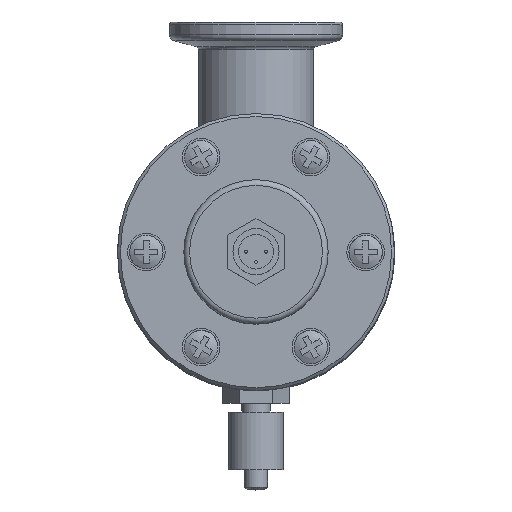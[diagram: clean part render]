
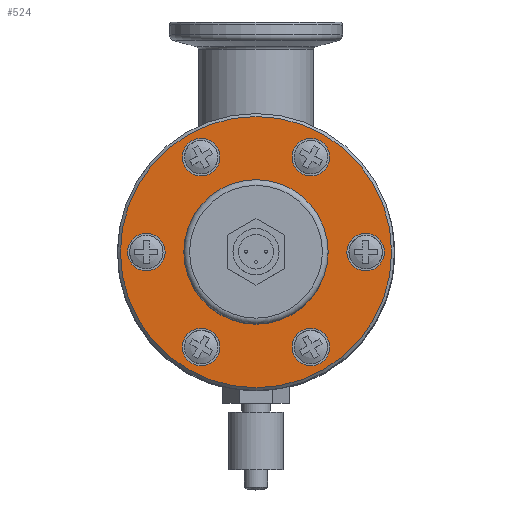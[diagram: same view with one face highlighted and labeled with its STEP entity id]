
A CAD part, top view. The second image highlights one B-rep face of the part: STEP entity #524.
In plain terms, the highlighted planar face has unit normal (0, 0, 1).
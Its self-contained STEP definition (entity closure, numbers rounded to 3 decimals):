
#524 = ADVANCED_FACE( '', ( #1041, #1042, #1043, #1044, #1045, #1046, #1047, #1048 ), #1049, .T. );
#1041 = FACE_BOUND( '', #1535, .T. );
#1042 = FACE_BOUND( '', #1536, .T. );
#1043 = FACE_BOUND( '', #1537, .T. );
#1044 = FACE_BOUND( '', #1538, .T. );
#1045 = FACE_BOUND( '', #1539, .T. );
#1046 = FACE_BOUND( '', #1540, .T. );
#1047 = FACE_OUTER_BOUND( '', #1541, .T. );
#1048 = FACE_BOUND( '', #1542, .T. );
#1049 = PLANE( '', #1543 );
#1535 = EDGE_LOOP( '', ( #2546 ) );
#1536 = EDGE_LOOP( '', ( #2547 ) );
#1537 = EDGE_LOOP( '', ( #2548 ) );
#1538 = EDGE_LOOP( '', ( #2549 ) );
#1539 = EDGE_LOOP( '', ( #2550 ) );
#1540 = EDGE_LOOP( '', ( #2551 ) );
#1541 = EDGE_LOOP( '', ( #2552 ) );
#1542 = EDGE_LOOP( '', ( #2553 ) );
#1543 = AXIS2_PLACEMENT_3D( '', #2554, #2555, #2556 );
#2546 = ORIENTED_EDGE( '', *, *, #2845, .T. );
#2547 = ORIENTED_EDGE( '', *, *, #2853, .T. );
#2548 = ORIENTED_EDGE( '', *, *, #2856, .T. );
#2549 = ORIENTED_EDGE( '', *, *, #2859, .T. );
#2550 = ORIENTED_EDGE( '', *, *, #2862, .T. );
#2551 = ORIENTED_EDGE( '', *, *, #2864, .T. );
#2552 = ORIENTED_EDGE( '', *, *, #2829, .T. );
#2553 = ORIENTED_EDGE( '', *, *, #2867, .T. );
#2554 = CARTESIAN_POINT( '', ( -24., 0., 12. ) );
#2555 = DIRECTION( '', ( 0., 0., 1. ) );
#2556 = DIRECTION( '', ( 1., 0., 0. ) );
#2829 = EDGE_CURVE( '', #3269, #3269, #3270, .T. );
#2845 = EDGE_CURVE( '', #3300, #3300, #3301, .T. );
#2853 = EDGE_CURVE( '', #3313, #3313, #3314, .T. );
#2856 = EDGE_CURVE( '', #3319, #3319, #3320, .T. );
#2859 = EDGE_CURVE( '', #3325, #3325, #3326, .T. );
#2862 = EDGE_CURVE( '', #3331, #3331, #3332, .T. );
#2864 = EDGE_CURVE( '', #3335, #3335, #3336, .T. );
#2867 = EDGE_CURVE( '', #3341, #3341, #3342, .T. );
#3269 = VERTEX_POINT( '', #4351 );
#3270 = CIRCLE( '', #4352, 23.5 );
#3300 = VERTEX_POINT( '', #4384 );
#3301 = CIRCLE( '', #4385, 3.25 );
#3313 = VERTEX_POINT( '', #4402 );
#3314 = CIRCLE( '', #4403, 3.25 );
#3319 = VERTEX_POINT( '', #4408 );
#3320 = CIRCLE( '', #4409, 3.25 );
#3325 = VERTEX_POINT( '', #4414 );
#3326 = CIRCLE( '', #4415, 3.25 );
#3331 = VERTEX_POINT( '', #4420 );
#3332 = CIRCLE( '', #4421, 3.25 );
#3335 = VERTEX_POINT( '', #4424 );
#3336 = CIRCLE( '', #4425, 3.25 );
#3341 = VERTEX_POINT( '', #4430 );
#3342 = CIRCLE( '', #4431, 12.5 );
#4351 = CARTESIAN_POINT( '', ( 23.5, 0., 12. ) );
#4352 = AXIS2_PLACEMENT_3D( '', #4815, #4816, #4817 );
#4384 = CARTESIAN_POINT( '', ( 9.5, 13.204, 12. ) );
#4385 = AXIS2_PLACEMENT_3D( '', #4859, #4860, #4861 );
#4402 = CARTESIAN_POINT( '', ( -9.5, 13.204, 12. ) );
#4403 = AXIS2_PLACEMENT_3D( '', #4873, #4874, #4875 );
#4408 = CARTESIAN_POINT( '', ( -19., -3.25, 12. ) );
#4409 = AXIS2_PLACEMENT_3D( '', #4882, #4883, #4884 );
#4414 = CARTESIAN_POINT( '', ( -9.5, -19.704, 12. ) );
#4415 = AXIS2_PLACEMENT_3D( '', #4891, #4892, #4893 );
#4420 = CARTESIAN_POINT( '', ( 9.5, -19.704, 12. ) );
#4421 = AXIS2_PLACEMENT_3D( '', #4900, #4901, #4902 );
#4424 = CARTESIAN_POINT( '', ( 19., -3.25, 12. ) );
#4425 = AXIS2_PLACEMENT_3D( '', #4906, #4907, #4908 );
#4430 = CARTESIAN_POINT( '', ( -12.5, 0., 12. ) );
#4431 = AXIS2_PLACEMENT_3D( '', #4915, #4916, #4917 );
#4815 = CARTESIAN_POINT( '', ( 0., 0., 12. ) );
#4816 = DIRECTION( '', ( 0., 0., 1. ) );
#4817 = DIRECTION( '', ( 1., 0., 0. ) );
#4859 = CARTESIAN_POINT( '', ( 9.5, 16.454, 12. ) );
#4860 = DIRECTION( '', ( 0., 0., -1. ) );
#4861 = DIRECTION( '', ( 0., -1., 0. ) );
#4873 = CARTESIAN_POINT( '', ( -9.5, 16.454, 12. ) );
#4874 = DIRECTION( '', ( 0., 0., -1. ) );
#4875 = DIRECTION( '', ( 0., -1., 0. ) );
#4882 = CARTESIAN_POINT( '', ( -19., 0., 12. ) );
#4883 = DIRECTION( '', ( 0., 0., -1. ) );
#4884 = DIRECTION( '', ( 0., -1., 0. ) );
#4891 = CARTESIAN_POINT( '', ( -9.5, -16.454, 12. ) );
#4892 = DIRECTION( '', ( 0., 0., -1. ) );
#4893 = DIRECTION( '', ( 0., -1., 0. ) );
#4900 = CARTESIAN_POINT( '', ( 9.5, -16.454, 12. ) );
#4901 = DIRECTION( '', ( 0., 0., -1. ) );
#4902 = DIRECTION( '', ( 0., -1., 0. ) );
#4906 = CARTESIAN_POINT( '', ( 19., 0., 12. ) );
#4907 = DIRECTION( '', ( 0., 0., -1. ) );
#4908 = DIRECTION( '', ( 0., -1., 0. ) );
#4915 = CARTESIAN_POINT( '', ( 0., 0., 12. ) );
#4916 = DIRECTION( '', ( 0., 0., -1. ) );
#4917 = DIRECTION( '', ( -1., 0., 0. ) );
